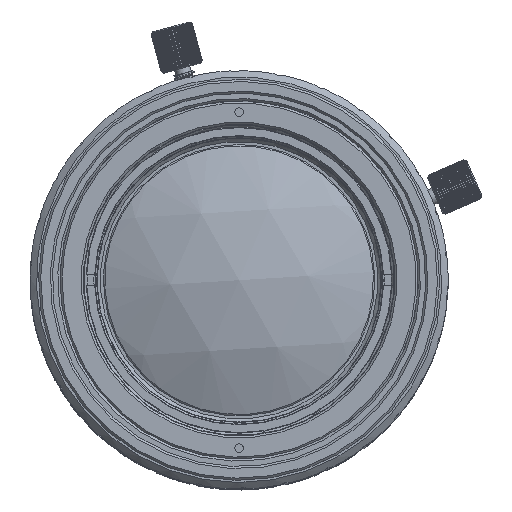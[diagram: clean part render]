
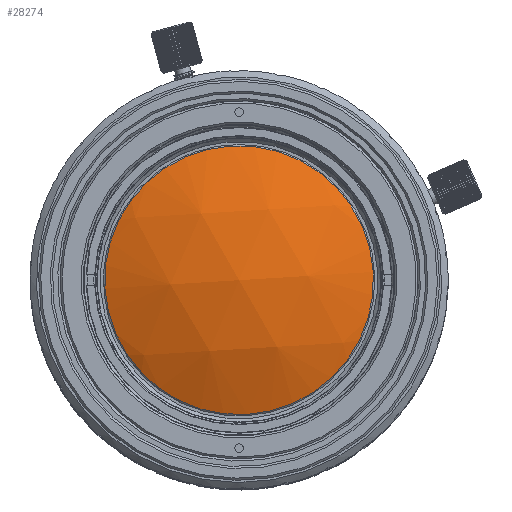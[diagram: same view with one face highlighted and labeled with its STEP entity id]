
A CAD part, top view. The second image highlights one B-rep face of the part: STEP entity #28274.
In plain terms, the highlighted spherical face has radius 29.836 mm.
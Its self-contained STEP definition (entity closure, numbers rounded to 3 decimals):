
#2314 = CARTESIAN_POINT ( 'NONE',  ( 0., 0., 2.846 ) ) ;
#6129 = CARTESIAN_POINT ( 'NONE',  ( 0.774, -12.576, 2.846 ) ) ;
#7570 = SPHERICAL_SURFACE ( 'NONE', #34662, 29.836 ) ;
#21035 = EDGE_LOOP ( 'NONE', ( #25593 ) ) ;
#21813 = AXIS2_PLACEMENT_3D ( 'NONE', #2314, #29497, #24220 ) ;
#24220 = DIRECTION ( 'NONE',  ( 0.061, -0.998, 0. ) ) ;
#25336 = CIRCLE ( 'NONE', #21813, 12.6 ) ;
#25593 = ORIENTED_EDGE ( 'NONE', *, *, #27837, .F. ) ;
#27246 = CARTESIAN_POINT ( 'NONE',  ( 0., 0., -24.198 ) ) ;
#27837 = EDGE_CURVE ( 'NONE', #30914, #30914, #25336, .T. ) ;
#28274 = ADVANCED_FACE ( 'NONE', ( #32536 ), #7570, .T. ) ;
#29265 = DIRECTION ( 'NONE',  ( -0.998, -0.061, 0. ) ) ;
#29497 = DIRECTION ( 'NONE',  ( 0., 0., -1. ) ) ;
#30914 = VERTEX_POINT ( 'NONE', #6129 ) ;
#32536 = FACE_OUTER_BOUND ( 'NONE', #21035, .T. ) ;
#34662 = AXIS2_PLACEMENT_3D ( 'NONE', #27246, #35279, #29265 ) ;
#35279 = DIRECTION ( 'NONE',  ( -0.061, 0.998, 0. ) ) ;
